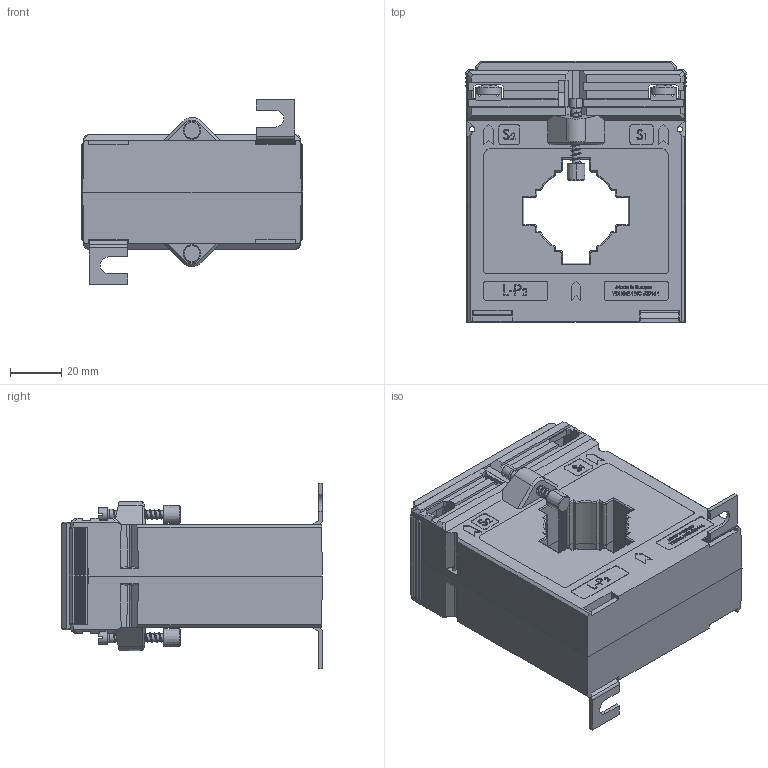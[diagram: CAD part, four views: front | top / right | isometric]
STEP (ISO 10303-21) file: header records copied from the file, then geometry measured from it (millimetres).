
FILE_DESCRIPTION (( 'STEP AP214' ), '1' );
FILE_NAME ('EASK541_4_kpl.STEP', '2011-12-08T09:57:44', ( ' ' ), ( '' ), 'SwSTEP 2.0', 'SolidWorks 2010', '' );
FILE_SCHEMA (( 'AUTOMOTIVE_DESIGN' ));
Length unit declared in the file: millimetre
Products named in the file (10): ASK61.4-14_Plombierplatte; EASK541_4_kpl; ASK541_4_11_Gehäuseoberteil; Verschlussklappe_38mm; Fusswinkel_1,5; ASK541_4_11; MBS_WN-003_04_Klemme_WN-003_02; Isolierschutzkappe; Plastite_Schraube_30_mit-Gewinde; Linsenschraube DIN 7985 4.8 VZ M 5 x 10
Assembly tree (17 placements, depth 2):
  EASK541_4_kpl
    ASK541_4_11
    Verschlussklappe_38mm  x2
    Fusswinkel_1,5  x2
    ASK541_4_11_Gehäuseoberteil
    ASK61.4-14_Plombierplatte
    Linsenschraube DIN 7985 4.8 VZ M 5 x 10  x4
    MBS_WN-003_04_Klemme_WN-003_02  x2
    Isolierschutzkappe  x2
    Plastite_Schraube_30_mit-Gewinde  x2
Bounding box: 86 x 101.5 x 72 mm (x, y, z)
Volume: 288717.9 mm3; surface area: 73898.6 mm2
Topology: 17 solids, 17 shells, 1998 faces, 5194 edges, 3352 vertices
Faces by surface type: plane 1302, bspline 320, cylinder 250, cone 78, torus 32, sphere 16
Entity records: 72880 total; most frequent: CARTESIAN_POINT 32177, ORIENTED_EDGE 9080, DIRECTION 6905, EDGE_CURVE 4540, LINE 3375, VECTOR 3375, VERTEX_POINT 2962, EDGE_LOOP 1870
